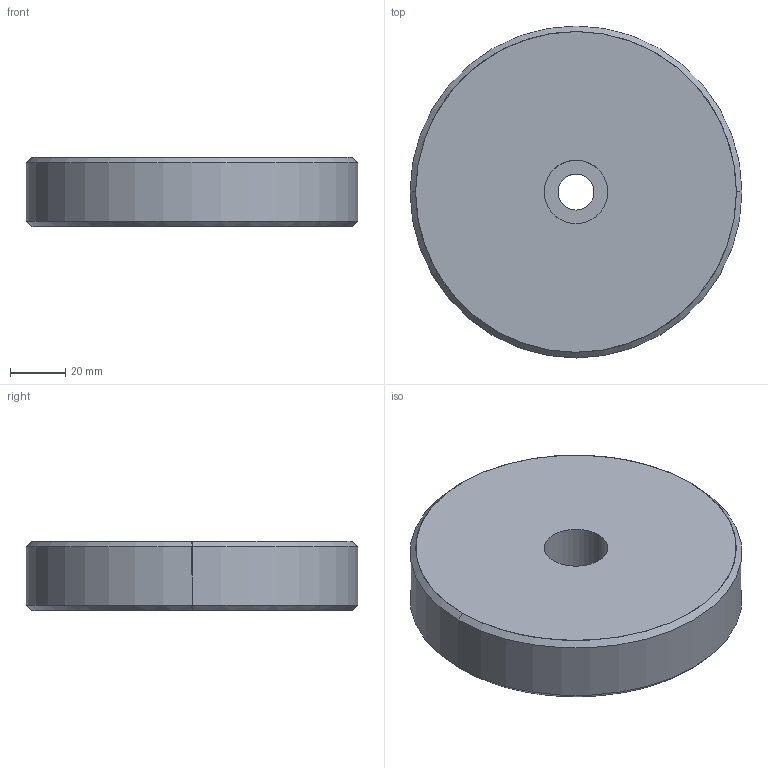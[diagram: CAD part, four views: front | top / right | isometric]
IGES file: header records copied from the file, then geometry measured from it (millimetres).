
Start section: START RECORD GO HERE.
Global section: file name: 703.5.igs; native system: DASSAULT SYSTEMES CATIA V5 R20 - www.3ds.com; preprocessor: CATIA Version 5 Release 20 ; author: Utente; organization: NB04-ASUS; date: 20201025.134049; units: millimetre
Bounding box: 120 x 120 x 25 mm (x, y, z)
Surface area: 32471.5 mm2 (no closed solid volume)
Topology: 0 solids, 0 shells, 13 faces, 52 edges, 52 vertices
Faces by surface type: revolution 10, plane 3
